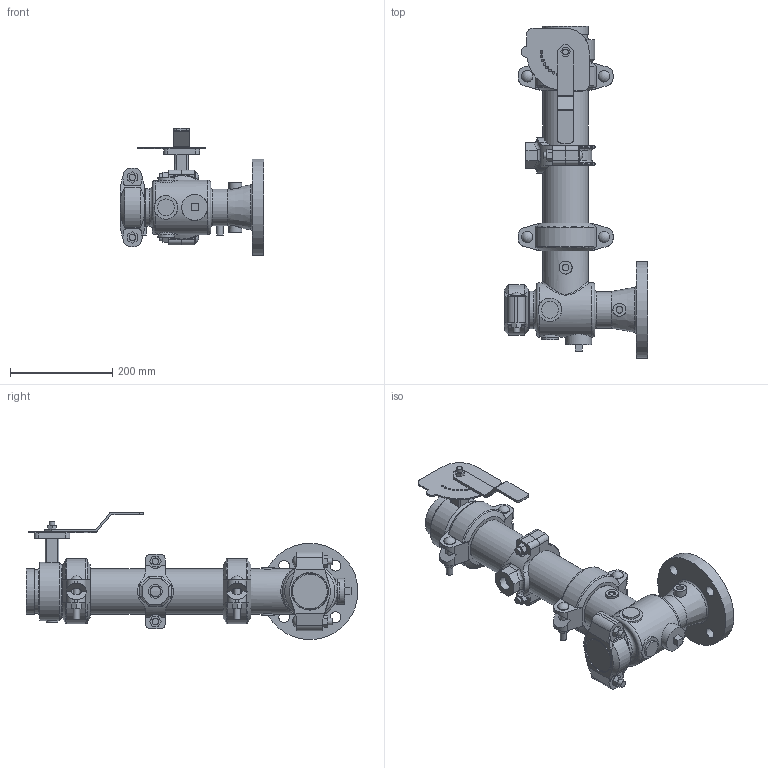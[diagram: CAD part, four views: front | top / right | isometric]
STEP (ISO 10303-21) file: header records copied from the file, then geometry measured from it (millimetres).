
FILE_DESCRIPTION(/* description */ ('VIC SVI PUMP DROP HORZ S/391 (OGSxFLG)','CAx-IF Rec.Pracs.---Representation and Presentation of Product Manufacturing Information (PMI)---4.0---2014-10-13'),/* implementation_level */ '2;1');
FILE_NAME(/* name */ 'C:\Users\kkamble\AppData\Roaming\Autodesk\ApplicationPlugins\Back Up\Victaulic_PN10_Series 391 (OGSxFLG)\Victaulic_PN10_Series 391 (OGSxFLG)_03.0x02.5 (76.1) (80x65).stp',/* time_stamp */ '2020-11-26T23:43:15+05:00',/* author */ ('kkamble'),/* organization */ ('Victaulic'),/* preprocessor_version */ 'ST-DEVELOPER v17.2',/* originating_system */ 'Autodesk Inventor 2019',/* authorisation */ '');
FILE_SCHEMA (('AP242_MANAGED_MODEL_BASED_3D_ENGINEERING_MIM_LF { 1 0 10303 442 1 1 4 }'));
Length unit declared in the file: inch
Products named in the file (11): 391-03.0x02.5 (76.1); 731D-03.0x02.5 (76.1); 731D-03.0x02.5 (76.1)_1; 731D-03.0; 07-02.5; PIPE-03.0; 177N-03.0; 761-03.0; 920NT-03.0x0.75; 920N LOWER HSG-03.0; 920NT-03.0x0.75_1
Assembly tree (11 placements, depth 3):
  391-03.0x02.5 (76.1)
    731D-03.0x02.5 (76.1)
      731D-03.0x02.5 (76.1)_1
      731D-03.0
      07-02.5
    177N-03.0  x2
    PIPE-03.0
    761-03.0
    920NT-03.0x0.75
      920N LOWER HSG-03.0
      920NT-03.0x0.75_1
Bounding box: 279.4 x 647.95 x 248.16 mm (x, y, z)
Volume: 3858896.9 mm3; surface area: 798612.3 mm2
Topology: 9 solids, 12 shells, 579 faces, 1531 edges, 1032 vertices
Faces by surface type: plane 318, cylinder 208, torus 23, cone 17, sphere 8, bspline 5
Full cylindrical faces by diameter (mm): 4.826 x10, 8.636 x4, 10.922 x2, 12.7 x12, 13.157 x4, 20.93 x1, 21.006 x4, 21.982 x2, 22.225 x6, 22.86 x1, 25.4 x4, 26.924 x1, 33.02 x3, 45.72 x3, 50.8 x2, 52.07 x1, 55.118 x1, 57.912 x1, 63.5 x1, 66.675 x1, 69.088 x2, 71.374 x1, 72.898 x1, 73.025 x5, 76.2 x2, 77.927 x2, 84.938 x5, 88.9 x13, 106.68 x1, 114.3 x1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
Entity records: 17626 total; most frequent: CARTESIAN_POINT 4195, DIRECTION 2711, ORIENTED_EDGE 2566, EDGE_CURVE 1283, AXIS2_PLACEMENT_3D 1024, VERTEX_POINT 869, LINE 663, VECTOR 663
